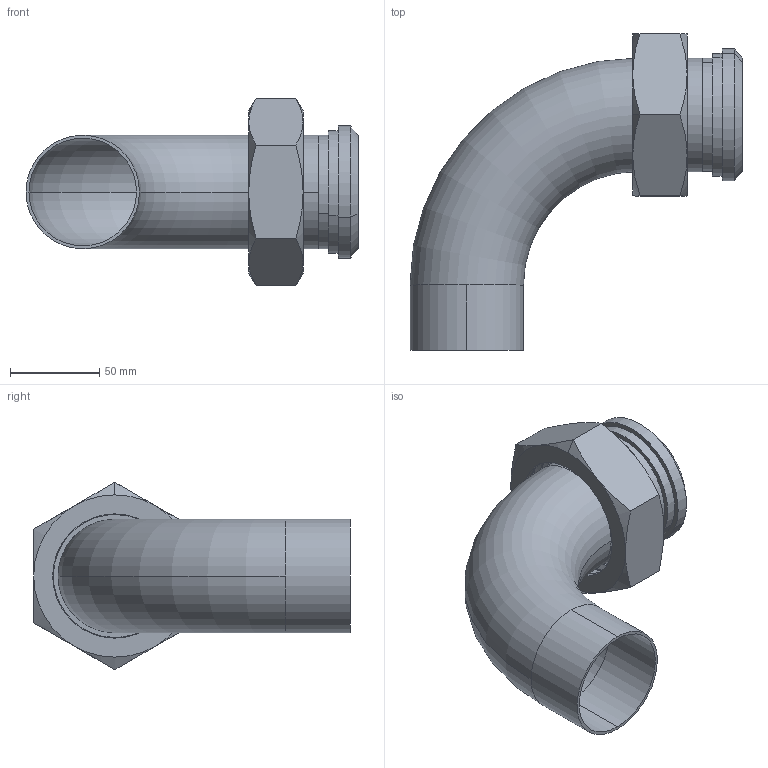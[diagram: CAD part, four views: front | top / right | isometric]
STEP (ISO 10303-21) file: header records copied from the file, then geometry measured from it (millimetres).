
FILE_DESCRIPTION (( 'STEP AP203' ), '1' );
FILE_NAME ('E2F2.5.STEP', '2018-05-02T15:00:42', ( 'vneprd' ), ( 'Microsoft' ), 'SwSTEP 2.0', 'SolidWorks 2014', '' );
FILE_SCHEMA (( 'CONFIG_CONTROL_DESIGN' ));
Length unit declared in the file: inch
Products named in the file (4): E2S2.5; 13H2.5; 14PR2.5; E2F2.5
Assembly tree (3 placements, depth 2):
  E2F2.5
    E2S2.5
    14PR2.5
    13H2.5
Bounding box: 185.8 x 177.15 x 104.85 mm (x, y, z)
Volume: 163229.8 mm3; surface area: 123509.2 mm2
Topology: 3 solids, 3 shells, 67 faces, 153 edges, 95 vertices
Faces by surface type: cylinder 28, plane 16, cone 16, torus 4, bspline 3
Entity records: 3430 total; most frequent: CARTESIAN_POINT 1558, DIRECTION 311, ORIENTED_EDGE 306, EDGE_CURVE 153, AXIS2_PLACEMENT_3D 134, VERTEX_POINT 95, EDGE_LOOP 76, FACE_OUTER_BOUND 67
